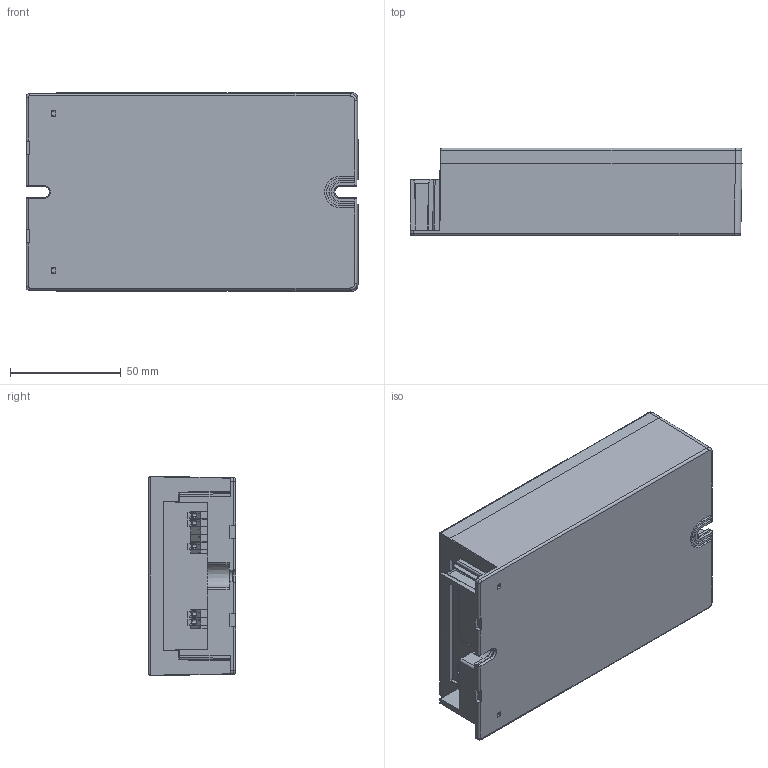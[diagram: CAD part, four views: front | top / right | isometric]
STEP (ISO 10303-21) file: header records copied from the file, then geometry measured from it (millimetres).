
FILE_DESCRIPTION (( 'STEP AP214' ), '1' );
FILE_NAME ('4223920swm000.step', '2020-06-17T16:59:33', ( 'OSRAM' ), ( 'OSRAM' ), 'SwSTEP 2.0', 'SolidWorks 2017', '' );
FILE_SCHEMA (( 'AUTOMOTIVE_DESIGN' ));
Length unit declared in the file: millimetre
Products named in the file (1): 4223920swm000
Bounding box: 149.93 x 39.5 x 89.83 mm (x, y, z)
Volume: 484113.5 mm3; surface area: 52649.4 mm2
Topology: 15 solids, 17 shells, 1167 faces, 2920 edges, 1850 vertices
Faces by surface type: plane 773, cylinder 300, cone 63, bspline 24, sphere 4, torus 3
Entity records: 48491 total; most frequent: CARTESIAN_POINT 7966, ORIENTED_EDGE 5828, DIRECTION 5533, EDGE_CURVE 2914, LINE 2089, VECTOR 2089, VERTEX_POINT 1850, AXIS2_PLACEMENT_3D 1722
